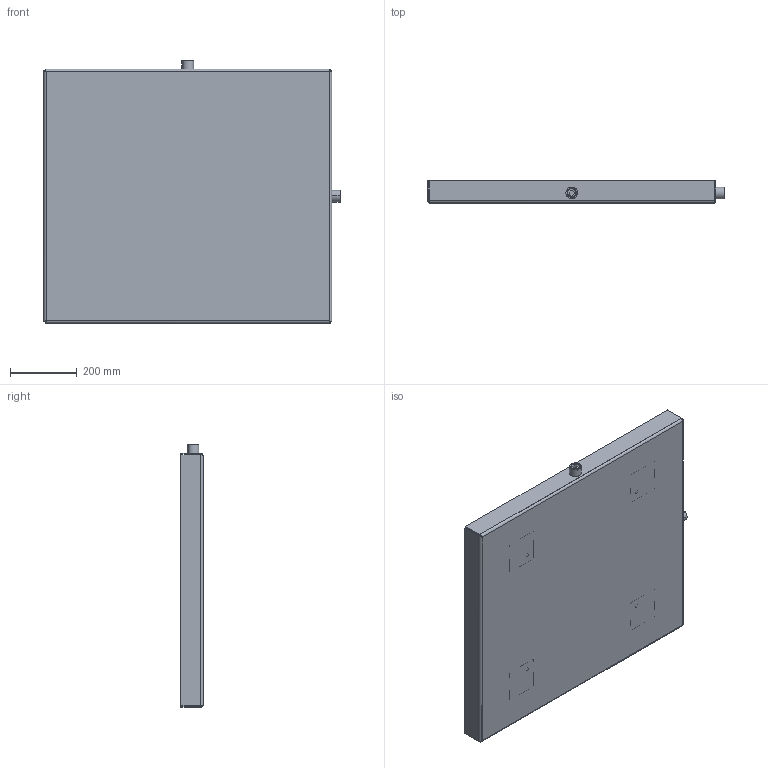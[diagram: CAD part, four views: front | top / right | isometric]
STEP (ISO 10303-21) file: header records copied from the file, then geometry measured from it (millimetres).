
FILE_DESCRIPTION (( 'STEP AP203' ), '1' );
FILE_NAME ('RJDPP010.STEP', '2015-01-07T19:49:45', ( '' ), ( '' ), 'SwSTEP 2.0', 'SolidWorks 2014', '' );
FILE_SCHEMA (( 'CONFIG_CONTROL_DESIGN' ));
Length unit declared in the file: inch
Products named in the file (1): RJDPP010
Bounding box: 889 x 66.67 x 787.4 mm (x, y, z)
Volume: 3149883.2 mm3; surface area: 1842022.2 mm2
Topology: 9 solids, 9 shells, 250 faces, 532 edges, 304 vertices
Faces by surface type: cone 128, plane 70, cylinder 44, bspline 8
Entity records: 7243 total; most frequent: CARTESIAN_POINT 1703, DIRECTION 1210, ORIENTED_EDGE 1064, EDGE_CURVE 532, AXIS2_PLACEMENT_3D 451, LINE 308, VECTOR 308, VERTEX_POINT 304
